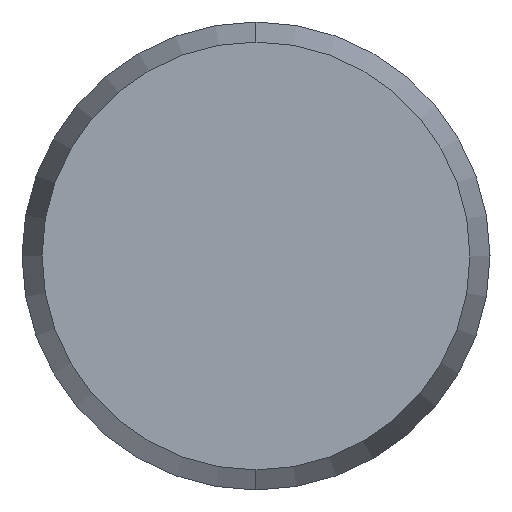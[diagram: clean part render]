
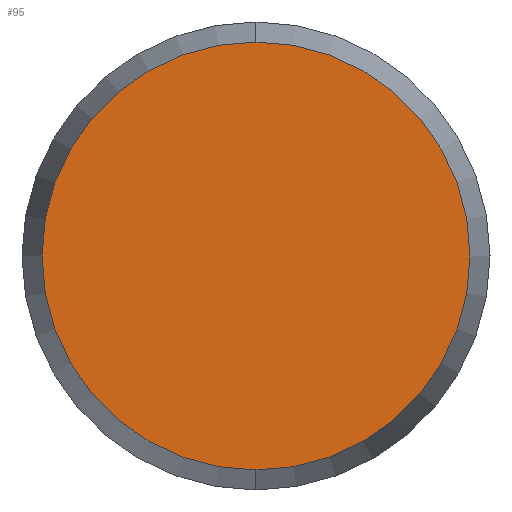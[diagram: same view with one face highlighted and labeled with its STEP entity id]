
A CAD part, left-side view. The second image highlights one B-rep face of the part: STEP entity #95.
In plain terms, the highlighted planar face has unit normal (-1, 0, 0).
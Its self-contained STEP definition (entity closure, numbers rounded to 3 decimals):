
#3 = AXIS2_PLACEMENT_3D ( 'NONE', #5, #6, #7 ) ;
#4 = CIRCLE ( 'NONE', #3, 2.286 ) ;
#5 = CARTESIAN_POINT ( 'NONE',  ( -30., 0., 0. ) ) ;
#6 = DIRECTION ( 'NONE',  ( 1., 0., 0. ) ) ;
#7 = DIRECTION ( 'NONE',  ( 0., 0., -1. ) ) ;
#20 = CARTESIAN_POINT ( 'NONE',  ( -30., 0., 2.286 ) ) ;
#22 = CARTESIAN_POINT ( 'NONE',  ( -30., 0., -2.286 ) ) ;
#29 = ORIENTED_EDGE ( 'NONE', *, *, #92, .F. ) ;
#36 = EDGE_CURVE ( 'NONE', #37, #38, #4, .T. ) ;
#37 = VERTEX_POINT ( 'NONE', #20 ) ;
#38 = VERTEX_POINT ( 'NONE', #22 ) ;
#92 = EDGE_CURVE ( 'NONE', #38, #37, #110, .T. ) ;
#95 = ADVANCED_FACE ( 'NONE', ( #105 ), #104, .F. ) ;
#96 = EDGE_LOOP ( 'NONE', ( #97, #29 ) ) ;
#97 = ORIENTED_EDGE ( 'NONE', *, *, #36, .F. ) ;
#99 = DIRECTION ( 'NONE',  ( 0., 0., -1. ) ) ;
#100 = DIRECTION ( 'NONE',  ( 1., 0., 0. ) ) ;
#101 = CARTESIAN_POINT ( 'NONE',  ( -30., 0., 0. ) ) ;
#103 = AXIS2_PLACEMENT_3D ( 'NONE', #101, #100, #99 ) ;
#104 = PLANE ( 'NONE',  #103 ) ;
#105 = FACE_OUTER_BOUND ( 'NONE', #96, .T. ) ;
#106 = DIRECTION ( 'NONE',  ( 0., 0., -1. ) ) ;
#107 = DIRECTION ( 'NONE',  ( 1., 0., 0. ) ) ;
#108 = CARTESIAN_POINT ( 'NONE',  ( -30., 0., 0. ) ) ;
#109 = AXIS2_PLACEMENT_3D ( 'NONE', #108, #107, #106 ) ;
#110 = CIRCLE ( 'NONE', #109, 2.286 ) ;
